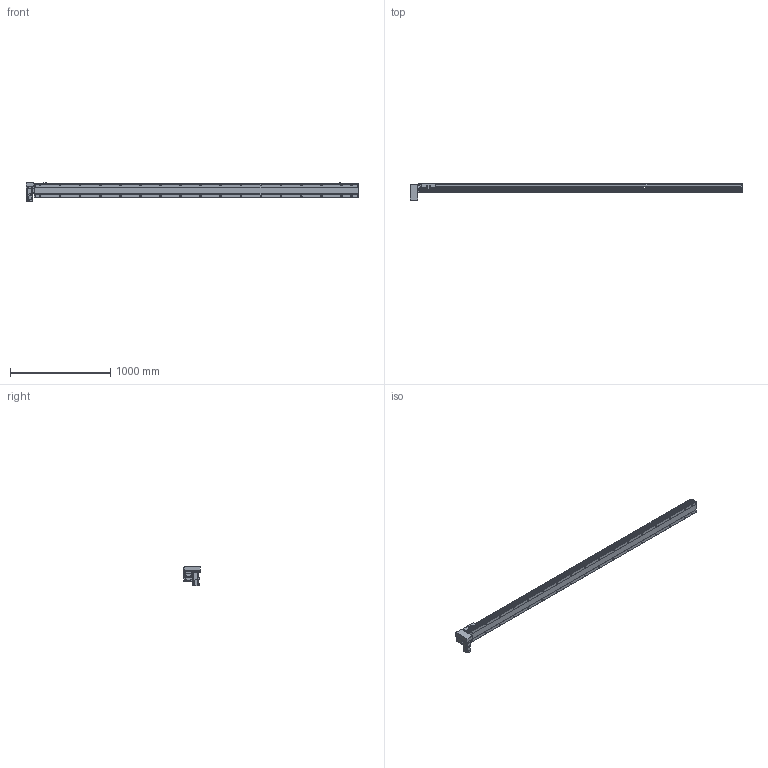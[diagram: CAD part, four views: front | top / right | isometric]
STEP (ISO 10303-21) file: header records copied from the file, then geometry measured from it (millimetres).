
FILE_DESCRIPTION(/* description */ ('STEP AP214'),/* implementation_level */ '2;1');
FILE_NAME(/* name */ 'PBS140S-P40-S2950-RD-T40-C1-N(0)',/* time_stamp */ '2022-06-09T02:48:52+02:00',/* author */ ('License CC BY-ND 4.0'),/* organization */ ('CADENAS'),/* preprocessor_version */ 'ST-DEVELOPER v18.102',/* originating_system */ 'PARTsolutions',/* authorisation */ ' ');
FILE_SCHEMA (('AUTOMOTIVE_DESIGN {1 0 10303 214 3 1 1}'));
Length unit declared in the file: millimetre
Products named in the file (7): PBS140S-P40-S2950-RD-T40-C1-N(0); PBS140S_sensor; PBS140S_plant; PBS140S_sliser; T40-p1; PBS140ST-RD_motors; PBS140S-S2950()_body
Assembly tree (8 placements, depth 2):
  PBS140S-P40-S2950-RD-T40-C1-N(0)
    PBS140S_sensor  x3
    PBS140S_plant
    PBS140S_sliser
    T40-p1
    PBS140ST-RD_motors
    PBS140S-S2950()_body
Bounding box: 3304 x 172.5 x 189.7 mm (x, y, z)
Volume: 15918528.1 mm3; surface area: 2672444.1 mm2
Topology: 8 solids, 8 shells, 1243 faces, 3271 edges, 2139 vertices
Faces by surface type: plane 756, cylinder 417, cone 60, sphere 8, torus 2
Full cylindrical faces by diameter (mm): 3.242 x4, 4 x2, 4.134 x4, 4.4 x8, 4.5 x2, 4.8 x4, 4.917 x42, 5.5 x7, 6 x2, 7 x36, 7.5 x8, 8 x12, 8.5 x4, 10.5 x34, 14 x1, 30 x2, 50 x2
Entity records: 35618 total; most frequent: CARTESIAN_POINT 6824, DIRECTION 5978, ORIENTED_EDGE 5602, EDGE_CURVE 2801, AXIS2_PLACEMENT_3D 2129, VERTEX_POINT 1969, LINE 1720, VECTOR 1720
